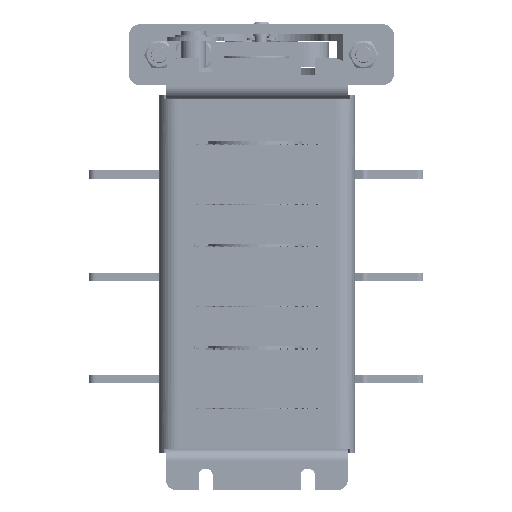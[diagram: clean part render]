
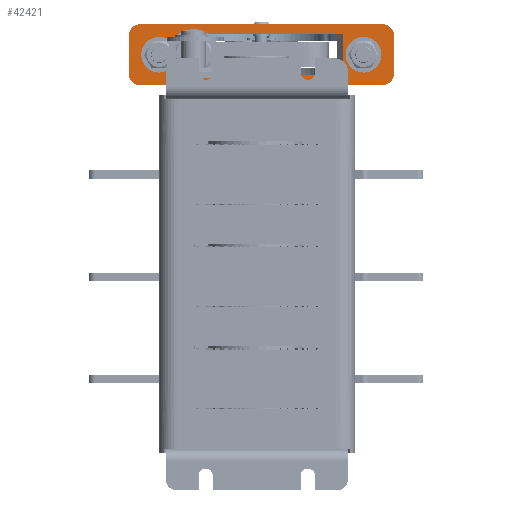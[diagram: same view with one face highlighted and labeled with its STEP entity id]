
A CAD part, left-side view. The second image highlights one B-rep face of the part: STEP entity #42421.
In plain terms, the highlighted planar face has unit normal (-1, 0, 0) as drawn and (0, -1, 0) by its records, which use the part's own axes.
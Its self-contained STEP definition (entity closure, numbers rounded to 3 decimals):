
#113 = EDGE_CURVE ( 'NONE', #29520, #24074, #7927, .T. ) ;
#329 = CIRCLE ( 'NONE', #47031, 6. ) ;
#346 = DIRECTION ( 'NONE',  ( 1., 0., 0. ) ) ;
#1237 = CARTESIAN_POINT ( 'NONE',  ( -65., -20., -15. ) ) ;
#1477 = CARTESIAN_POINT ( 'NONE',  ( -50., -20., 0. ) ) ;
#1523 = VERTEX_POINT ( 'NONE', #14365 ) ;
#1534 = DIRECTION ( 'NONE',  ( -1., 0., 0. ) ) ;
#1933 = EDGE_CURVE ( 'NONE', #24455, #29312, #66063, .T. ) ;
#2270 = DIRECTION ( 'NONE',  ( 0., -1., 0. ) ) ;
#3939 = CARTESIAN_POINT ( 'NONE',  ( 65., -20., 9. ) ) ;
#4948 = CARTESIAN_POINT ( 'NONE',  ( -59., -20., -15. ) ) ;
#5012 = DIRECTION ( 'NONE',  ( -1., 0., 0. ) ) ;
#5138 = LINE ( 'NONE', #8716, #50357 ) ;
#5922 = FACE_BOUND ( 'NONE', #50496, .T. ) ;
#6489 = AXIS2_PLACEMENT_3D ( 'NONE', #50844, #16423, #33624 ) ;
#7337 = DIRECTION ( 'NONE',  ( 0., 0., 1. ) ) ;
#7927 = LINE ( 'NONE', #66453, #40789 ) ;
#8716 = CARTESIAN_POINT ( 'NONE',  ( -40., -20., 10. ) ) ;
#9783 = VERTEX_POINT ( 'NONE', #11080 ) ;
#11080 = CARTESIAN_POINT ( 'NONE',  ( -40., -20., -10. ) ) ;
#12464 = CARTESIAN_POINT ( 'NONE',  ( 59., -20., 9. ) ) ;
#12511 = CIRCLE ( 'NONE', #28644, 4.5 ) ;
#13349 = AXIS2_PLACEMENT_3D ( 'NONE', #21240, #26950, #66473 ) ;
#14365 = CARTESIAN_POINT ( 'NONE',  ( 40., -20., -10. ) ) ;
#15527 = VERTEX_POINT ( 'NONE', #18714 ) ;
#16018 = ORIENTED_EDGE ( 'NONE', *, *, #67124, .T. ) ;
#16423 = DIRECTION ( 'NONE',  ( 0., -1., 0. ) ) ;
#16644 = ORIENTED_EDGE ( 'NONE', *, *, #35938, .F. ) ;
#17462 = ORIENTED_EDGE ( 'NONE', *, *, #34192, .F. ) ;
#17600 = CIRCLE ( 'NONE', #62398, 6. ) ;
#17908 = CARTESIAN_POINT ( 'NONE',  ( 45.5, -20., 0. ) ) ;
#18714 = CARTESIAN_POINT ( 'NONE',  ( -45.5, -20., 0. ) ) ;
#19469 = DIRECTION ( 'NONE',  ( 1., 0., 0. ) ) ;
#19651 = CARTESIAN_POINT ( 'NONE',  ( -50., -20., 0. ) ) ;
#19947 = VERTEX_POINT ( 'NONE', #66654 ) ;
#20184 = VECTOR ( 'NONE', #23646, 1000. ) ;
#20901 = ORIENTED_EDGE ( 'NONE', *, *, #72561, .T. ) ;
#21150 = EDGE_CURVE ( 'NONE', #29520, #35456, #329, .T. ) ;
#21240 = CARTESIAN_POINT ( 'NONE',  ( -65., -20., 15. ) ) ;
#23631 = LINE ( 'NONE', #64397, #51911 ) ;
#23646 = DIRECTION ( 'NONE',  ( 1., 0., 0. ) ) ;
#23707 = CIRCLE ( 'NONE', #36929, 4.5 ) ;
#23801 = DIRECTION ( 'NONE',  ( 0., 0., 1. ) ) ;
#24074 = VERTEX_POINT ( 'NONE', #34456 ) ;
#24250 = VERTEX_POINT ( 'NONE', #42032 ) ;
#24455 = VERTEX_POINT ( 'NONE', #38312 ) ;
#25297 = VERTEX_POINT ( 'NONE', #40129 ) ;
#26927 = CARTESIAN_POINT ( 'NONE',  ( 59., -20., -15. ) ) ;
#26950 = DIRECTION ( 'NONE',  ( 0., 1., 0. ) ) ;
#27367 = VECTOR ( 'NONE', #346, 1000. ) ;
#27721 = CIRCLE ( 'NONE', #44629, 6. ) ;
#27781 = DIRECTION ( 'NONE',  ( 0., -1., 0. ) ) ;
#28644 = AXIS2_PLACEMENT_3D ( 'NONE', #19651, #42684, #65877 ) ;
#28723 = VERTEX_POINT ( 'NONE', #41305 ) ;
#29259 = DIRECTION ( 'NONE',  ( -1., 0., 0. ) ) ;
#29312 = VERTEX_POINT ( 'NONE', #17908 ) ;
#29520 = VERTEX_POINT ( 'NONE', #3939 ) ;
#29830 = EDGE_CURVE ( 'NONE', #9783, #28723, #58663, .T. ) ;
#31066 = ORIENTED_EDGE ( 'NONE', *, *, #1933, .F. ) ;
#31611 = CIRCLE ( 'NONE', #45835, 4.5 ) ;
#32091 = CARTESIAN_POINT ( 'NONE',  ( 40., -20., 10. ) ) ;
#32150 = ORIENTED_EDGE ( 'NONE', *, *, #46358, .T. ) ;
#32543 = LINE ( 'NONE', #57157, #50981 ) ;
#33321 = EDGE_CURVE ( 'NONE', #61968, #71737, #17600, .T. ) ;
#33624 = DIRECTION ( 'NONE',  ( 0., 0., -1. ) ) ;
#33765 = EDGE_CURVE ( 'NONE', #15527, #25297, #23707, .T. ) ;
#33985 = EDGE_CURVE ( 'NONE', #24250, #35456, #23631, .T. ) ;
#34118 = CARTESIAN_POINT ( 'NONE',  ( 59., -20., -9. ) ) ;
#34192 = EDGE_CURVE ( 'NONE', #29312, #24455, #31611, .T. ) ;
#34432 = FACE_BOUND ( 'NONE', #48061, .T. ) ;
#34456 = CARTESIAN_POINT ( 'NONE',  ( 65., -20., -9. ) ) ;
#34604 = ORIENTED_EDGE ( 'NONE', *, *, #46017, .F. ) ;
#35314 = DIRECTION ( 'NONE',  ( 0., -1., 0. ) ) ;
#35456 = VERTEX_POINT ( 'NONE', #62444 ) ;
#35938 = EDGE_CURVE ( 'NONE', #1523, #72762, #32543, .T. ) ;
#36929 = AXIS2_PLACEMENT_3D ( 'NONE', #1477, #35314, #46133 ) ;
#37709 = EDGE_LOOP ( 'NONE', ( #60474, #60000, #32150, #59240, #71567, #49368, #64785, #20901 ) ) ;
#38312 = CARTESIAN_POINT ( 'NONE',  ( 54.5, -20., 0. ) ) ;
#40129 = CARTESIAN_POINT ( 'NONE',  ( -54.5, -20., 0. ) ) ;
#40789 = VECTOR ( 'NONE', #55049, 1000. ) ;
#40957 = LINE ( 'NONE', #57349, #44463 ) ;
#41305 = CARTESIAN_POINT ( 'NONE',  ( -40., -20., 10. ) ) ;
#41382 = CARTESIAN_POINT ( 'NONE',  ( -40., -20., -10. ) ) ;
#41451 = LINE ( 'NONE', #1237, #20184 ) ;
#42032 = CARTESIAN_POINT ( 'NONE',  ( -59., -20., 15. ) ) ;
#42421 = ADVANCED_FACE ( 'NONE', ( #5922, #34432, #59953, #67046 ), #55064, .F. ) ;
#42534 = EDGE_LOOP ( 'NONE', ( #16644, #34604, #64505, #16018 ) ) ;
#42684 = DIRECTION ( 'NONE',  ( 0., -1., 0. ) ) ;
#43842 = CARTESIAN_POINT ( 'NONE',  ( 50., -20., 0. ) ) ;
#44329 = VERTEX_POINT ( 'NONE', #26927 ) ;
#44463 = VECTOR ( 'NONE', #64001, 1000. ) ;
#44629 = AXIS2_PLACEMENT_3D ( 'NONE', #34118, #44924, #5012 ) ;
#44924 = DIRECTION ( 'NONE',  ( 0., -1., 0. ) ) ;
#45835 = AXIS2_PLACEMENT_3D ( 'NONE', #43842, #27781, #67314 ) ;
#46017 = EDGE_CURVE ( 'NONE', #9783, #1523, #51184, .T. ) ;
#46133 = DIRECTION ( 'NONE',  ( 0., 0., 1. ) ) ;
#46358 = EDGE_CURVE ( 'NONE', #71737, #44329, #41451, .T. ) ;
#46447 = DIRECTION ( 'NONE',  ( -1., 0., 0. ) ) ;
#46499 = CIRCLE ( 'NONE', #70652, 6. ) ;
#47031 = AXIS2_PLACEMENT_3D ( 'NONE', #12464, #68194, #46447 ) ;
#47182 = CARTESIAN_POINT ( 'NONE',  ( -65., -20., -9. ) ) ;
#48061 = EDGE_LOOP ( 'NONE', ( #31066, #17462 ) ) ;
#49368 = ORIENTED_EDGE ( 'NONE', *, *, #21150, .T. ) ;
#50357 = VECTOR ( 'NONE', #19469, 1000. ) ;
#50496 = EDGE_LOOP ( 'NONE', ( #69978, #57707 ) ) ;
#50844 = CARTESIAN_POINT ( 'NONE',  ( 50., -20., 0. ) ) ;
#50913 = CARTESIAN_POINT ( 'NONE',  ( -40., -20., -10. ) ) ;
#50981 = VECTOR ( 'NONE', #23801, 1000. ) ;
#51184 = LINE ( 'NONE', #50913, #27367 ) ;
#51911 = VECTOR ( 'NONE', #64636, 1000. ) ;
#52856 = EDGE_CURVE ( 'NONE', #44329, #24074, #27721, .T. ) ;
#53193 = EDGE_CURVE ( 'NONE', #25297, #15527, #12511, .T. ) ;
#55049 = DIRECTION ( 'NONE',  ( 0., 0., -1. ) ) ;
#55064 = PLANE ( 'NONE',  #13349 ) ;
#57157 = CARTESIAN_POINT ( 'NONE',  ( 40., -20., -10. ) ) ;
#57349 = CARTESIAN_POINT ( 'NONE',  ( -65., -20., 15. ) ) ;
#57707 = ORIENTED_EDGE ( 'NONE', *, *, #53193, .F. ) ;
#58663 = LINE ( 'NONE', #41382, #68371 ) ;
#59240 = ORIENTED_EDGE ( 'NONE', *, *, #52856, .T. ) ;
#59953 = FACE_BOUND ( 'NONE', #42534, .T. ) ;
#60000 = ORIENTED_EDGE ( 'NONE', *, *, #33321, .T. ) ;
#60219 = EDGE_CURVE ( 'NONE', #19947, #61968, #40957, .T. ) ;
#60474 = ORIENTED_EDGE ( 'NONE', *, *, #60219, .T. ) ;
#61968 = VERTEX_POINT ( 'NONE', #47182 ) ;
#62398 = AXIS2_PLACEMENT_3D ( 'NONE', #63097, #68530, #29259 ) ;
#62444 = CARTESIAN_POINT ( 'NONE',  ( 59., -20., 15. ) ) ;
#63097 = CARTESIAN_POINT ( 'NONE',  ( -59., -20., -9. ) ) ;
#64001 = DIRECTION ( 'NONE',  ( 0., 0., -1. ) ) ;
#64397 = CARTESIAN_POINT ( 'NONE',  ( -65., -20., 15. ) ) ;
#64505 = ORIENTED_EDGE ( 'NONE', *, *, #29830, .T. ) ;
#64636 = DIRECTION ( 'NONE',  ( 1., 0., 0. ) ) ;
#64785 = ORIENTED_EDGE ( 'NONE', *, *, #33985, .F. ) ;
#65877 = DIRECTION ( 'NONE',  ( 0., 0., 1. ) ) ;
#66063 = CIRCLE ( 'NONE', #6489, 4.5 ) ;
#66453 = CARTESIAN_POINT ( 'NONE',  ( 65., -20., 15. ) ) ;
#66473 = DIRECTION ( 'NONE',  ( -1., 0., 0. ) ) ;
#66654 = CARTESIAN_POINT ( 'NONE',  ( -65., -20., 9. ) ) ;
#67046 = FACE_OUTER_BOUND ( 'NONE', #37709, .T. ) ;
#67124 = EDGE_CURVE ( 'NONE', #28723, #72762, #5138, .T. ) ;
#67314 = DIRECTION ( 'NONE',  ( 0., 0., -1. ) ) ;
#68194 = DIRECTION ( 'NONE',  ( 0., -1., 0. ) ) ;
#68371 = VECTOR ( 'NONE', #7337, 1000. ) ;
#68530 = DIRECTION ( 'NONE',  ( 0., -1., 0. ) ) ;
#69635 = CARTESIAN_POINT ( 'NONE',  ( -59., -20., 9. ) ) ;
#69978 = ORIENTED_EDGE ( 'NONE', *, *, #33765, .F. ) ;
#70652 = AXIS2_PLACEMENT_3D ( 'NONE', #69635, #2270, #1534 ) ;
#71567 = ORIENTED_EDGE ( 'NONE', *, *, #113, .F. ) ;
#71737 = VERTEX_POINT ( 'NONE', #4948 ) ;
#72561 = EDGE_CURVE ( 'NONE', #24250, #19947, #46499, .T. ) ;
#72762 = VERTEX_POINT ( 'NONE', #32091 ) ;
